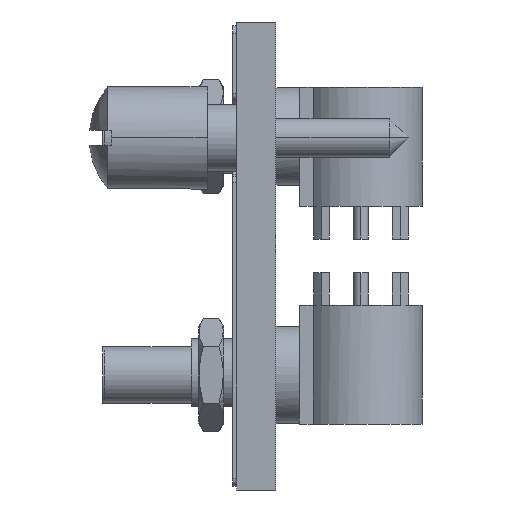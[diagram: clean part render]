
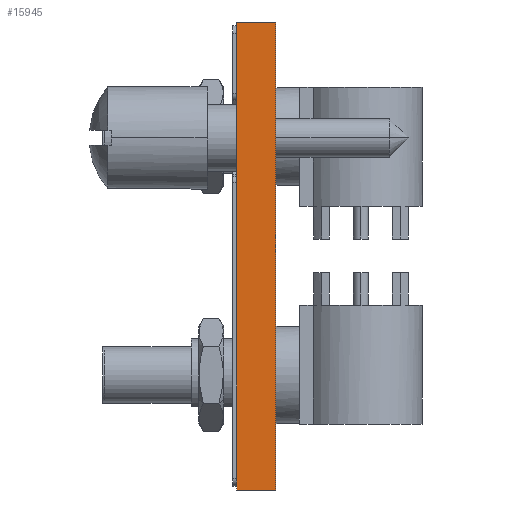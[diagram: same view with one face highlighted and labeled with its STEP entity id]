
A CAD part, front view. The second image highlights one B-rep face of the part: STEP entity #15945.
In plain terms, the highlighted planar face has unit normal (0, -1, 0).
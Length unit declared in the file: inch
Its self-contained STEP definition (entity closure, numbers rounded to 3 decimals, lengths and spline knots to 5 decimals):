
#358=DIRECTION('',(0.,0.,1.));
#359=VECTOR('',#358,1.188);
#360=CARTESIAN_POINT('',(0.,-0.335,-0.291));
#361=LINE('',#360,#359);
#398=DIRECTION('',(-1.,0.,0.));
#399=VECTOR('',#398,0.1);
#400=CARTESIAN_POINT('',(0.,-0.335,0.897));
#401=LINE('',#400,#399);
#402=DIRECTION('',(-1.,0.,0.));
#403=VECTOR('',#402,0.1);
#404=CARTESIAN_POINT('',(0.,-0.335,-0.291));
#405=LINE('',#404,#403);
#418=DIRECTION('',(0.,0.,1.));
#419=VECTOR('',#418,1.188);
#420=CARTESIAN_POINT('',(-0.1,-0.335,-0.291));
#421=LINE('',#420,#419);
#14690=CARTESIAN_POINT('',(0.,-0.335,-0.291));
#14692=VERTEX_POINT('',#14690);
#14693=CARTESIAN_POINT('',(0.,-0.335,0.897));
#14694=VERTEX_POINT('',#14693);
#14698=CARTESIAN_POINT('',(-0.1,-0.335,-0.291));
#14700=VERTEX_POINT('',#14698);
#14701=CARTESIAN_POINT('',(-0.1,-0.335,0.897));
#14702=VERTEX_POINT('',#14701);
#15933=CARTESIAN_POINT('',(0.,-0.335,-0.291));
#15934=DIRECTION('',(0.,-1.,0.));
#15935=DIRECTION('',(0.,0.,1.));
#15936=AXIS2_PLACEMENT_3D('',#15933,#15934,#15935);
#15937=PLANE('',#15936);
#15938=ORIENTED_EDGE('',*,*,#15750,.F.);
#15939=ORIENTED_EDGE('',*,*,#15900,.T.);
#15941=ORIENTED_EDGE('',*,*,#15940,.T.);
#15942=ORIENTED_EDGE('',*,*,#15925,.F.);
#15943=EDGE_LOOP('',(#15938,#15939,#15941,#15942));
#15944=FACE_OUTER_BOUND('',#15943,.F.);
#15945=ADVANCED_FACE('',(#15944),#15937,.T.);
#15750=EDGE_CURVE('',#14692,#14694,#361,.T.);
#15900=EDGE_CURVE('',#14692,#14700,#405,.T.);
#15925=EDGE_CURVE('',#14694,#14702,#401,.T.);
#15940=EDGE_CURVE('',#14700,#14702,#421,.T.);
